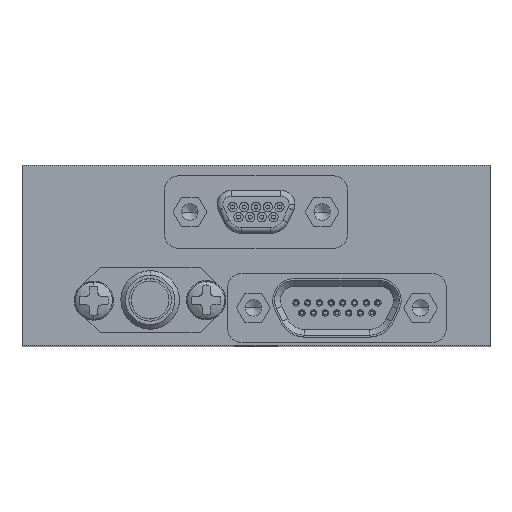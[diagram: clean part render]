
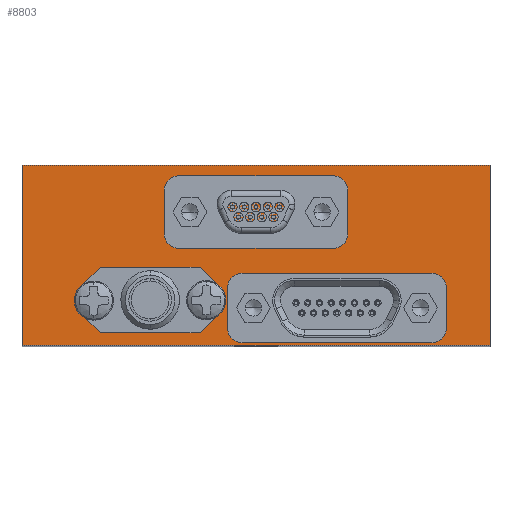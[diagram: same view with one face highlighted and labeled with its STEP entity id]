
A CAD part, top view. The second image highlights one B-rep face of the part: STEP entity #8803.
In plain terms, the highlighted planar face has unit normal (0, 0, 1).
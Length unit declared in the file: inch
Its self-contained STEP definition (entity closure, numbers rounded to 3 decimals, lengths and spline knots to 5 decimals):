
#140 = EDGE_CURVE ( 'NONE', #35969, #16491, #2228, .T. ) ;
#514 = VECTOR ( 'NONE', #2426, 39.37008 ) ;
#638 = DIRECTION ( 'NONE',  ( 1., 0., 0. ) ) ;
#1022 = DIRECTION ( 'NONE',  ( 1., 0., 0. ) ) ;
#1112 = EDGE_CURVE ( 'NONE', #14618, #13735, #26189, .T. ) ;
#1195 = EDGE_LOOP ( 'NONE', ( #2231, #35651 ) ) ;
#1345 = EDGE_LOOP ( 'NONE', ( #17545, #32049 ) ) ;
#1645 = CIRCLE ( 'NONE', #16130, 0.01905 ) ;
#2016 = CARTESIAN_POINT ( 'NONE',  ( 0.77779, 1.56151, 3.70477 ) ) ;
#2228 = LINE ( 'NONE', #24647, #514 ) ;
#2231 = ORIENTED_EDGE ( 'NONE', *, *, #31281, .F. ) ;
#2278 = AXIS2_PLACEMENT_3D ( 'NONE', #6446, #28693, #22867 ) ;
#2426 = DIRECTION ( 'NONE',  ( 0., -1., 0. ) ) ;
#2676 = VERTEX_POINT ( 'NONE', #10996 ) ;
#2690 = DIRECTION ( 'NONE',  ( 1., 0., 0. ) ) ;
#2763 = CARTESIAN_POINT ( 'NONE',  ( 1.09084, 1.97151, 3.70477 ) ) ;
#2880 = VERTEX_POINT ( 'NONE', #28476 ) ;
#3007 = CARTESIAN_POINT ( 'NONE',  ( -0.21071, 2.17151, 3.70477 ) ) ;
#3759 = VERTEX_POINT ( 'NONE', #24556 ) ;
#4249 = CARTESIAN_POINT ( 'NONE',  ( 1.78929, 2.17151, 3.70477 ) ) ;
#4314 = CARTESIAN_POINT ( 'NONE',  ( 0.50679, 1.97151, 3.70477 ) ) ;
#4590 = VERTEX_POINT ( 'NONE', #27490 ) ;
#5011 = CARTESIAN_POINT ( 'NONE',  ( 0.48774, 1.97151, 3.70477 ) ) ;
#5179 = AXIS2_PLACEMENT_3D ( 'NONE', #4314, #16863, #638 ) ;
#5482 = LINE ( 'NONE', #27278, #17734 ) ;
#5574 = DIRECTION ( 'NONE',  ( 0., 0., 1. ) ) ;
#5688 = DIRECTION ( 'NONE',  ( -1., 0., 0. ) ) ;
#5900 = EDGE_CURVE ( 'NONE', #15460, #10783, #38995, .T. ) ;
#6446 = CARTESIAN_POINT ( 'NONE',  ( 1.07179, 1.97151, 3.70477 ) ) ;
#6465 = FACE_BOUND ( 'NONE', #17737, .T. ) ;
#7097 = CARTESIAN_POINT ( 'NONE',  ( 0.79684, 1.56151, 3.70477 ) ) ;
#7662 = VERTEX_POINT ( 'NONE', #4249 ) ;
#7842 = CIRCLE ( 'NONE', #13120, 0.01905 ) ;
#8071 = CARTESIAN_POINT ( 'NONE',  ( 1.51184, 1.56151, 3.70477 ) ) ;
#8135 = AXIS2_PLACEMENT_3D ( 'NONE', #16623, #29160, #1022 ) ;
#8681 = DIRECTION ( 'NONE',  ( 1., 0., 0. ) ) ;
#8803 = ADVANCED_FACE ( 'NONE', ( #22098, #6465, #37213, #21484, #30596, #24603 ), #31205, .F. ) ;
#8855 = CARTESIAN_POINT ( 'NONE',  ( 0.50679, 1.97151, 3.70477 ) ) ;
#9396 = CARTESIAN_POINT ( 'NONE',  ( 0.33679, 1.59582, 3.70477 ) ) ;
#9469 = DIRECTION ( 'NONE',  ( 0., 0., 1. ) ) ;
#9901 = CARTESIAN_POINT ( 'NONE',  ( 1.49279, 1.56151, 3.70477 ) ) ;
#10108 = DIRECTION ( 'NONE',  ( 0., 0., 1. ) ) ;
#10663 = CIRCLE ( 'NONE', #33725, 0.01905 ) ;
#10783 = VERTEX_POINT ( 'NONE', #13270 ) ;
#10953 = ORIENTED_EDGE ( 'NONE', *, *, #140, .T. ) ;
#10996 = CARTESIAN_POINT ( 'NONE',  ( 0.35584, 1.59582, 3.70477 ) ) ;
#11530 = CARTESIAN_POINT ( 'NONE',  ( 1.07179, 1.97151, 3.70477 ) ) ;
#12938 = EDGE_CURVE ( 'NONE', #4590, #29910, #22597, .T. ) ;
#13004 = EDGE_CURVE ( 'NONE', #29910, #4590, #1645, .T. ) ;
#13120 = AXIS2_PLACEMENT_3D ( 'NONE', #28970, #32082, #16628 ) ;
#13270 = CARTESIAN_POINT ( 'NONE',  ( 0.75874, 1.56151, 3.70477 ) ) ;
#13498 = CARTESIAN_POINT ( 'NONE',  ( 0.77779, 1.56151, 3.70477 ) ) ;
#13602 = ORIENTED_EDGE ( 'NONE', *, *, #12938, .F. ) ;
#13735 = VERTEX_POINT ( 'NONE', #33896 ) ;
#14182 = VECTOR ( 'NONE', #19770, 39.37008 ) ;
#14221 = LINE ( 'NONE', #22644, #14182 ) ;
#14570 = DIRECTION ( 'NONE',  ( 1., 0., 0. ) ) ;
#14618 = VERTEX_POINT ( 'NONE', #5011 ) ;
#15369 = DIRECTION ( 'NONE',  ( 1., 0., 0. ) ) ;
#15370 = CIRCLE ( 'NONE', #40392, 0.01905 ) ;
#15460 = VERTEX_POINT ( 'NONE', #7097 ) ;
#15756 = DIRECTION ( 'NONE',  ( 0., 0., -1. ) ) ;
#16130 = AXIS2_PLACEMENT_3D ( 'NONE', #11530, #5574, #18314 ) ;
#16204 = AXIS2_PLACEMENT_3D ( 'NONE', #3007, #15756, #5688 ) ;
#16230 = VECTOR ( 'NONE', #8681, 39.37008 ) ;
#16394 = DIRECTION ( 'NONE',  ( 1., 0., 0. ) ) ;
#16491 = VERTEX_POINT ( 'NONE', #34323 ) ;
#16623 = CARTESIAN_POINT ( 'NONE',  ( 0.33679, 1.59582, 3.70477 ) ) ;
#16628 = DIRECTION ( 'NONE',  ( 1., 0., 0. ) ) ;
#16863 = DIRECTION ( 'NONE',  ( 0., 0., 1. ) ) ;
#16921 = ORIENTED_EDGE ( 'NONE', *, *, #35248, .F. ) ;
#17545 = ORIENTED_EDGE ( 'NONE', *, *, #22840, .F. ) ;
#17734 = VECTOR ( 'NONE', #15369, 39.37008 ) ;
#17737 = EDGE_LOOP ( 'NONE', ( #37380, #16921 ) ) ;
#17956 = ORIENTED_EDGE ( 'NONE', *, *, #22529, .F. ) ;
#18314 = DIRECTION ( 'NONE',  ( 1., 0., 0. ) ) ;
#19371 = EDGE_CURVE ( 'NONE', #3759, #32428, #15370, .T. ) ;
#19465 = EDGE_LOOP ( 'NONE', ( #24262, #38241, #21015, #10953 ) ) ;
#19586 = DIRECTION ( 'NONE',  ( 1., 0., 0. ) ) ;
#19770 = DIRECTION ( 'NONE',  ( 0., -1., 0. ) ) ;
#19942 = EDGE_CURVE ( 'NONE', #35969, #7662, #5482, .T. ) ;
#20560 = EDGE_LOOP ( 'NONE', ( #17956, #27011 ) ) ;
#21015 = ORIENTED_EDGE ( 'NONE', *, *, #19942, .F. ) ;
#21484 = FACE_BOUND ( 'NONE', #1345, .T. ) ;
#22098 = FACE_BOUND ( 'NONE', #35643, .T. ) ;
#22529 = EDGE_CURVE ( 'NONE', #13735, #14618, #32293, .T. ) ;
#22578 = CIRCLE ( 'NONE', #8135, 0.01905 ) ;
#22597 = CIRCLE ( 'NONE', #2278, 0.01905 ) ;
#22644 = CARTESIAN_POINT ( 'NONE',  ( 1.78929, 2.17151, 3.70477 ) ) ;
#22840 = EDGE_CURVE ( 'NONE', #2676, #27038, #22578, .T. ) ;
#22867 = DIRECTION ( 'NONE',  ( 1., 0., 0. ) ) ;
#24262 = ORIENTED_EDGE ( 'NONE', *, *, #40331, .T. ) ;
#24556 = CARTESIAN_POINT ( 'NONE',  ( 1.47374, 1.56151, 3.70477 ) ) ;
#24603 = FACE_OUTER_BOUND ( 'NONE', #19465, .T. ) ;
#24647 = CARTESIAN_POINT ( 'NONE',  ( -0.21071, 2.17151, 3.70477 ) ) ;
#25785 = AXIS2_PLACEMENT_3D ( 'NONE', #13498, #35152, #16394 ) ;
#26189 = CIRCLE ( 'NONE', #5179, 0.01905 ) ;
#26487 = DIRECTION ( 'NONE',  ( 0., 0., 1. ) ) ;
#27011 = ORIENTED_EDGE ( 'NONE', *, *, #1112, .F. ) ;
#27038 = VERTEX_POINT ( 'NONE', #37575 ) ;
#27278 = CARTESIAN_POINT ( 'NONE',  ( -0.21071, 2.17151, 3.70477 ) ) ;
#27424 = CARTESIAN_POINT ( 'NONE',  ( -0.21071, 1.40151, 3.70477 ) ) ;
#27490 = CARTESIAN_POINT ( 'NONE',  ( 1.05274, 1.97151, 3.70477 ) ) ;
#28476 = CARTESIAN_POINT ( 'NONE',  ( 1.78929, 1.40151, 3.70477 ) ) ;
#28542 = DIRECTION ( 'NONE',  ( 1., 0., 0. ) ) ;
#28693 = DIRECTION ( 'NONE',  ( 0., 0., 1. ) ) ;
#28970 = CARTESIAN_POINT ( 'NONE',  ( 1.49279, 1.56151, 3.70477 ) ) ;
#29160 = DIRECTION ( 'NONE',  ( 0., 0., 1. ) ) ;
#29910 = VERTEX_POINT ( 'NONE', #2763 ) ;
#30570 = CARTESIAN_POINT ( 'NONE',  ( -0.21071, 2.17151, 3.70477 ) ) ;
#30596 = FACE_BOUND ( 'NONE', #20560, .T. ) ;
#31026 = DIRECTION ( 'NONE',  ( 0., 0., 1. ) ) ;
#31205 = PLANE ( 'NONE',  #16204 ) ;
#31281 = EDGE_CURVE ( 'NONE', #32428, #3759, #7842, .T. ) ;
#32049 = ORIENTED_EDGE ( 'NONE', *, *, #35381, .F. ) ;
#32082 = DIRECTION ( 'NONE',  ( 0., 0., 1. ) ) ;
#32293 = CIRCLE ( 'NONE', #38890, 0.01905 ) ;
#32428 = VERTEX_POINT ( 'NONE', #8071 ) ;
#33725 = AXIS2_PLACEMENT_3D ( 'NONE', #9396, #31026, #28542 ) ;
#33828 = AXIS2_PLACEMENT_3D ( 'NONE', #2016, #26487, #14570 ) ;
#33896 = CARTESIAN_POINT ( 'NONE',  ( 0.52584, 1.97151, 3.70477 ) ) ;
#34323 = CARTESIAN_POINT ( 'NONE',  ( -0.21071, 1.40151, 3.70477 ) ) ;
#35152 = DIRECTION ( 'NONE',  ( 0., 0., 1. ) ) ;
#35245 = ORIENTED_EDGE ( 'NONE', *, *, #13004, .F. ) ;
#35248 = EDGE_CURVE ( 'NONE', #10783, #15460, #38990, .T. ) ;
#35381 = EDGE_CURVE ( 'NONE', #27038, #2676, #10663, .T. ) ;
#35643 = EDGE_LOOP ( 'NONE', ( #35245, #13602 ) ) ;
#35651 = ORIENTED_EDGE ( 'NONE', *, *, #19371, .F. ) ;
#35969 = VERTEX_POINT ( 'NONE', #30570 ) ;
#37213 = FACE_BOUND ( 'NONE', #1195, .T. ) ;
#37380 = ORIENTED_EDGE ( 'NONE', *, *, #5900, .F. ) ;
#37575 = CARTESIAN_POINT ( 'NONE',  ( 0.31774, 1.59582, 3.70477 ) ) ;
#38241 = ORIENTED_EDGE ( 'NONE', *, *, #39675, .F. ) ;
#38890 = AXIS2_PLACEMENT_3D ( 'NONE', #8855, #9469, #2690 ) ;
#38990 = CIRCLE ( 'NONE', #25785, 0.01905 ) ;
#38995 = CIRCLE ( 'NONE', #33828, 0.01905 ) ;
#39675 = EDGE_CURVE ( 'NONE', #7662, #2880, #14221, .T. ) ;
#39848 = LINE ( 'NONE', #27424, #16230 ) ;
#40331 = EDGE_CURVE ( 'NONE', #16491, #2880, #39848, .T. ) ;
#40392 = AXIS2_PLACEMENT_3D ( 'NONE', #9901, #10108, #19586 ) ;
